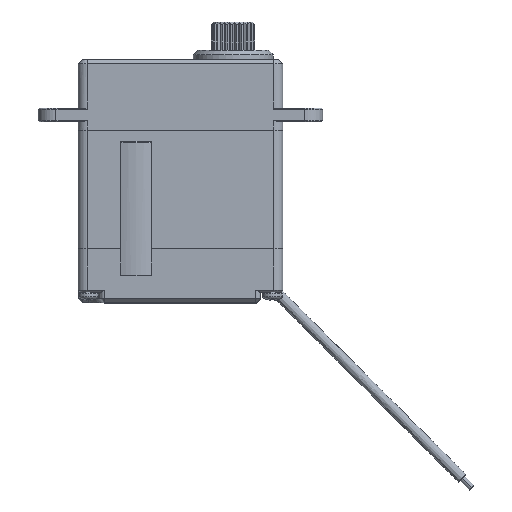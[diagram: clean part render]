
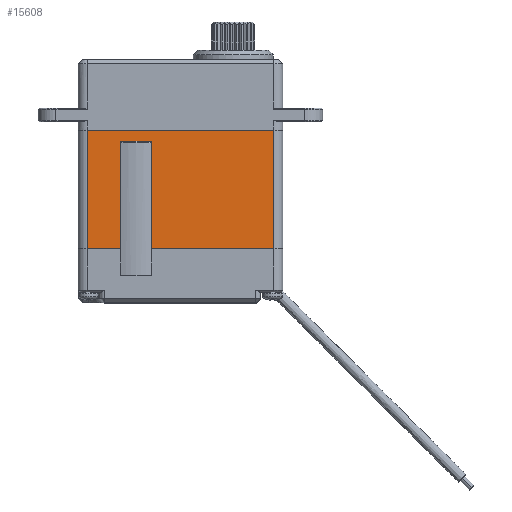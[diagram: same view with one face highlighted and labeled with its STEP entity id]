
A CAD part, top view. The second image highlights one B-rep face of the part: STEP entity #15608.
In plain terms, the highlighted planar face has unit normal (0, 0, 1).
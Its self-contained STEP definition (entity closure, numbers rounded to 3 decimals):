
#3450=DIRECTION('',(1.,0.,0.));
#3451=VECTOR('',#3450,3.8);
#3452=CARTESIAN_POINT('',(-10.5,-13.29,6.));
#3453=LINE('',#3452,#3451);
#3454=DIRECTION('',(1.,0.,0.));
#3455=VECTOR('',#3454,21.);
#3456=CARTESIAN_POINT('',(-10.5,-0.01,6.));
#3457=LINE('',#3456,#3455);
#3458=DIRECTION('',(1.,0.,0.));
#3459=VECTOR('',#3458,13.8);
#3460=CARTESIAN_POINT('',(-3.3,-13.29,6.));
#3461=LINE('',#3460,#3459);
#3462=DIRECTION('',(0.,1.,0.));
#3463=VECTOR('',#3462,12.09);
#3464=CARTESIAN_POINT('',(-3.3,-13.29,6.));
#3465=LINE('',#3464,#3463);
#3466=DIRECTION('',(1.,0.,0.));
#3467=VECTOR('',#3466,3.4);
#3468=CARTESIAN_POINT('',(-6.7,-1.2,6.));
#3469=LINE('',#3468,#3467);
#3470=DIRECTION('',(0.,1.,0.));
#3471=VECTOR('',#3470,12.09);
#3472=CARTESIAN_POINT('',(-6.7,-13.29,6.));
#3473=LINE('',#3472,#3471);
#3613=DIRECTION('',(0.,-1.,0.));
#3614=VECTOR('',#3613,13.28);
#3615=CARTESIAN_POINT('',(-10.5,-0.01,6.));
#3616=LINE('',#3615,#3614);
#5879=DIRECTION('',(0.,1.,0.));
#5880=VECTOR('',#5879,13.28);
#5881=CARTESIAN_POINT('',(10.5,-13.29,6.));
#5882=LINE('',#5881,#5880);
#10052=CARTESIAN_POINT('',(-6.7,-1.2,6.));
#10053=CARTESIAN_POINT('',(-3.3,-1.2,6.));
#10054=VERTEX_POINT('',#10052);
#10055=VERTEX_POINT('',#10053);
#10124=CARTESIAN_POINT('',(-10.5,-0.01,6.));
#10125=CARTESIAN_POINT('',(10.5,-0.01,6.));
#10126=VERTEX_POINT('',#10124);
#10127=VERTEX_POINT('',#10125);
#10196=CARTESIAN_POINT('',(-10.5,-13.29,6.));
#10197=CARTESIAN_POINT('',(-6.7,-13.29,6.));
#10198=VERTEX_POINT('',#10196);
#10199=VERTEX_POINT('',#10197);
#10200=CARTESIAN_POINT('',(-3.3,-13.29,6.));
#10201=CARTESIAN_POINT('',(10.5,-13.29,6.));
#10202=VERTEX_POINT('',#10200);
#10203=VERTEX_POINT('',#10201);
#15585=CARTESIAN_POINT('',(-11.5,0.,6.));
#15586=DIRECTION('',(0.,0.,1.));
#15587=DIRECTION('',(1.,0.,0.));
#15588=AXIS2_PLACEMENT_3D('',#15585,#15586,#15587);
#15589=PLANE('',#15588);
#15591=ORIENTED_EDGE('',*,*,#15590,.F.);
#15593=ORIENTED_EDGE('',*,*,#15592,.F.);
#15595=ORIENTED_EDGE('',*,*,#15594,.T.);
#15597=ORIENTED_EDGE('',*,*,#15596,.F.);
#15599=ORIENTED_EDGE('',*,*,#15598,.F.);
#15601=ORIENTED_EDGE('',*,*,#15600,.T.);
#15603=ORIENTED_EDGE('',*,*,#15602,.F.);
#15605=ORIENTED_EDGE('',*,*,#15604,.F.);
#15606=EDGE_LOOP('',(#15591,#15593,#15595,#15597,#15599,#15601,#15603,#15605));
#15607=FACE_OUTER_BOUND('',#15606,.F.);
#15590=EDGE_CURVE('',#10198,#10199,#3453,.T.);
#15592=EDGE_CURVE('',#10126,#10198,#3616,.T.);
#15594=EDGE_CURVE('',#10126,#10127,#3457,.T.);
#15596=EDGE_CURVE('',#10203,#10127,#5882,.T.);
#15598=EDGE_CURVE('',#10202,#10203,#3461,.T.);
#15600=EDGE_CURVE('',#10202,#10055,#3465,.T.);
#15602=EDGE_CURVE('',#10054,#10055,#3469,.T.);
#15604=EDGE_CURVE('',#10199,#10054,#3473,.T.);
#15608=ADVANCED_FACE('',(#15607),#15589,.T.);
